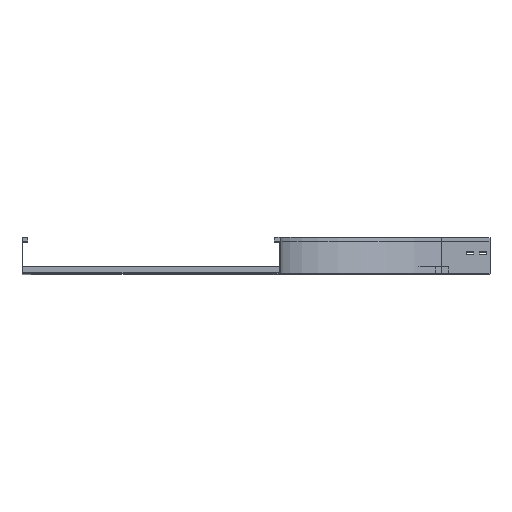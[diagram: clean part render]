
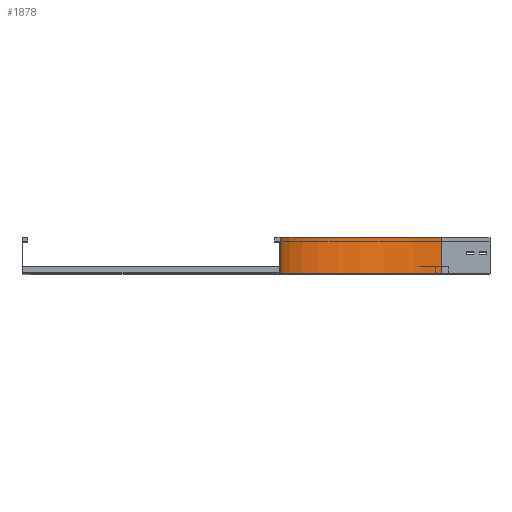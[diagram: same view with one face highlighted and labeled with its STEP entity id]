
A CAD part, top view. The second image highlights one B-rep face of the part: STEP entity #1878.
In plain terms, the highlighted cylindrical face has radius 500 mm (diameter 1000 mm), a partial arc.
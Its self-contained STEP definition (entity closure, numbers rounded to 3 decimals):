
#89 = CARTESIAN_POINT ( 'NONE',  ( 500., 112.5, -150. ) ) ;
#103 = DIRECTION ( 'NONE',  ( 0., 1., 0. ) ) ;
#111 = VECTOR ( 'NONE', #1480, 1000. ) ;
#170 = AXIS2_PLACEMENT_3D ( 'NONE', #89, #3681, #4051 ) ;
#406 = CARTESIAN_POINT ( 'NONE',  ( 500., 112.5, -650. ) ) ;
#512 = VERTEX_POINT ( 'NONE', #406 ) ;
#552 = FACE_OUTER_BOUND ( 'NONE', #2141, .T. ) ;
#564 = AXIS2_PLACEMENT_3D ( 'NONE', #2350, #1714, #720 ) ;
#583 = EDGE_CURVE ( 'NONE', #3441, #1987, #1070, .T. ) ;
#720 = DIRECTION ( 'NONE',  ( -1., 0., 0. ) ) ;
#723 = CARTESIAN_POINT ( 'NONE',  ( 500., 0., -650. ) ) ;
#750 = LINE ( 'NONE', #1420, #1990 ) ;
#889 = DIRECTION ( 'NONE',  ( 0., 0., -1. ) ) ;
#1070 = LINE ( 'NONE', #4046, #111 ) ;
#1247 = ORIENTED_EDGE ( 'NONE', *, *, #1713, .T. ) ;
#1342 = CIRCLE ( 'NONE', #170, 500. ) ;
#1351 = CARTESIAN_POINT ( 'NONE',  ( 0., 112.5, -150. ) ) ;
#1420 = CARTESIAN_POINT ( 'NONE',  ( 500., 0., -650. ) ) ;
#1480 = DIRECTION ( 'NONE',  ( 0., 1., 0. ) ) ;
#1505 = ORIENTED_EDGE ( 'NONE', *, *, #3887, .F. ) ;
#1523 = CARTESIAN_POINT ( 'NONE',  ( 500., 0., -150. ) ) ;
#1713 = EDGE_CURVE ( 'NONE', #4156, #512, #750, .T. ) ;
#1714 = DIRECTION ( 'NONE',  ( 0., -1., 0. ) ) ;
#1878 = ADVANCED_FACE ( 'NONE', ( #552 ), #3172, .F. ) ;
#1987 = VERTEX_POINT ( 'NONE', #1351 ) ;
#1990 = VECTOR ( 'NONE', #103, 1000. ) ;
#2069 = ORIENTED_EDGE ( 'NONE', *, *, #2854, .T. ) ;
#2141 = EDGE_LOOP ( 'NONE', ( #1505, #4247, #2069, #1247 ) ) ;
#2350 = CARTESIAN_POINT ( 'NONE',  ( 500., 0., -150. ) ) ;
#2717 = CIRCLE ( 'NONE', #564, 500. ) ;
#2850 = DIRECTION ( 'NONE',  ( 0., -1., 0. ) ) ;
#2854 = EDGE_CURVE ( 'NONE', #3441, #4156, #2717, .T. ) ;
#3172 = CYLINDRICAL_SURFACE ( 'NONE', #3391, 500. ) ;
#3391 = AXIS2_PLACEMENT_3D ( 'NONE', #1523, #2850, #889 ) ;
#3441 = VERTEX_POINT ( 'NONE', #3706 ) ;
#3681 = DIRECTION ( 'NONE',  ( 0., -1., 0. ) ) ;
#3706 = CARTESIAN_POINT ( 'NONE',  ( 0., 0., -150. ) ) ;
#3887 = EDGE_CURVE ( 'NONE', #1987, #512, #1342, .T. ) ;
#4046 = CARTESIAN_POINT ( 'NONE',  ( 0., 0., -150. ) ) ;
#4051 = DIRECTION ( 'NONE',  ( -1., 0., 0. ) ) ;
#4156 = VERTEX_POINT ( 'NONE', #723 ) ;
#4247 = ORIENTED_EDGE ( 'NONE', *, *, #583, .F. ) ;
